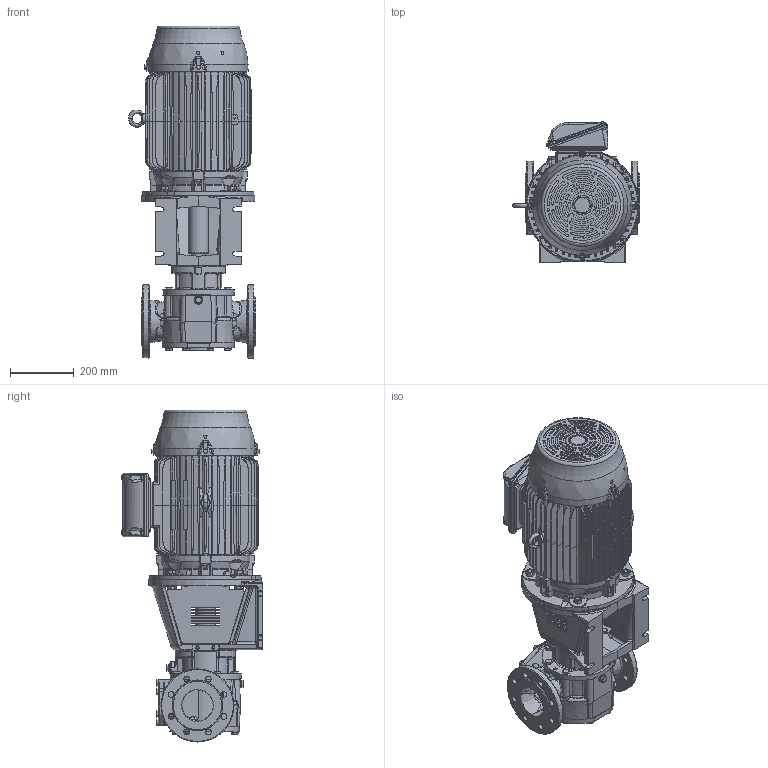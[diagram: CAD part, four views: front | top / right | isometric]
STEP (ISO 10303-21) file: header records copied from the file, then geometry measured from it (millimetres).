
FILE_DESCRIPTION(/* description */ (''),/* implementation_level */ '2;1');
FILE_NAME(/* name */ 'C:\V\JPP\Designs\GEAR PUMPS\PRODUCT ENGINEERING\EUROPE\TG BLOC\TG BLOC_86-100_G2_O_NRV-_160L-STEP.stp',/* time_stamp */ '2021-03-19T13:55:31+01:00',/* author */ ('A77THR'),/* organization */ (''),/* preprocessor_version */ 'ST-DEVELOPER v18.1',/* originating_system */ 'Autodesk Inventor 2020',/* authorisation */ '');
FILE_SCHEMA (('AUTOMOTIVE_DESIGN { 1 0 10303 214 3 1 1 }'));
Length unit declared in the file: millimetre
Products named in the file (1): TG BLOC_86-100_G2_O_NRV-_160L
Bounding box: 399.99 x 444.6 x 1044.4 mm (x, y, z)
Volume: 54201188.2 mm3; surface area: 2689489.8 mm2
Topology: 1 solids, 1 shells, 4734 faces, 12457 edges, 7879 vertices
Faces by surface type: plane 1903, bspline 1046, cylinder 1035, cone 567, torus 135, sphere 48
Full cylindrical faces by diameter (mm): 4 x1, 4.5 x8, 4.917 x8, 5 x4, 6.3 x1, 6.647 x1, 7 x4, 7.5 x3, 8 x13, 9 x2, 9.188 x8, 9.4 x1, 10 x16, 10.106 x7, 10.2 x2, 11 x8, 11.053 x4, 11.445 x2, 11.6 x7, 12 x4, 12.5 x3, 13 x5, 13.157 x2, 13.2 x2, 14 x8, 15.011 x2, 15.4 x8, 16 x1, 17.2 x20, 18 x18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
Entity records: 198476 total; most frequent: CARTESIAN_POINT 84797, ORIENTED_EDGE 24700, DIRECTION 20571, EDGE_CURVE 12350, AXIS2_PLACEMENT_3D 7919, VERTEX_POINT 7879, EDGE_LOOP 5139, FACE_OUTER_BOUND 4734
